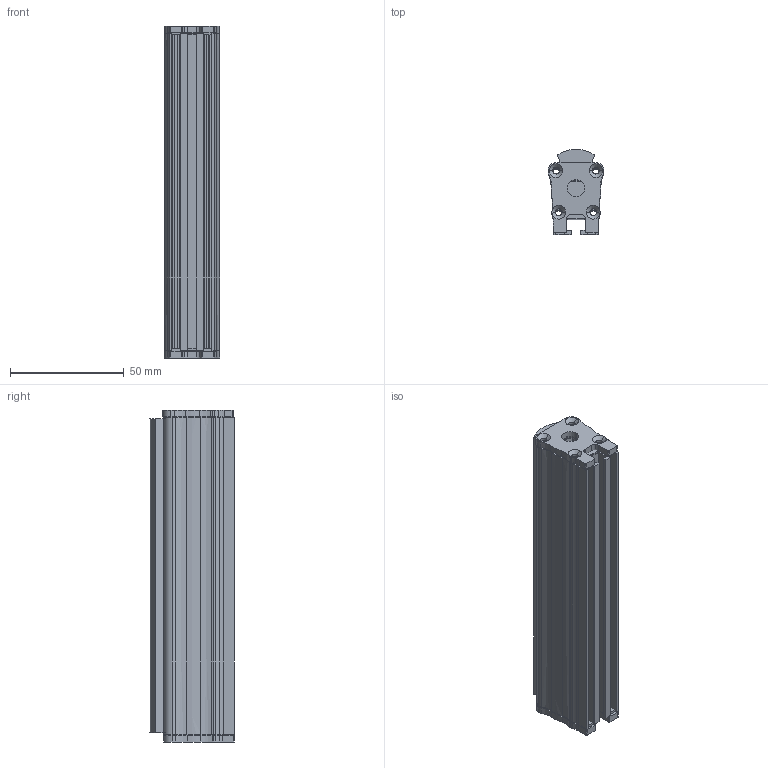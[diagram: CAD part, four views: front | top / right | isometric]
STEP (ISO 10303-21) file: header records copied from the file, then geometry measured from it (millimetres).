
FILE_DESCRIPTION(('STEP AP214'),'1');
FILE_NAME('lin+op 118.stp','2021-02-15T14:39:12',('Blanc'),('Phlox'),'Spatial InterOp 3D',' ',' ');
FILE_SCHEMA(('AUTOMOTIVE_DESIGN { 1 0 10303 214 1 1 1 1 }'));
Length unit declared in the file: inch
Products named in the file (1): Pièce_83634808
Bounding box: 24.54 x 37.28 x 146.06 mm (x, y, z)
Volume: 54569.3 mm3; surface area: 47107.3 mm2
Topology: 6 solids, 6 shells, 380 faces, 1090 edges, 718 vertices
Faces by surface type: cylinder 211, plane 103, bspline 36, cone 16, extrusion 14
Entity records: 25207 total; most frequent: CARTESIAN_POINT 7221, ORIENTED_EDGE 2180, DIRECTION 2086, STYLED_ITEM 1345, PRESENTATION_STYLE_ASSIGNMENT 1345, COLOUR_RGB 1345, EDGE_CURVE 1090, CURVE_STYLE 959
